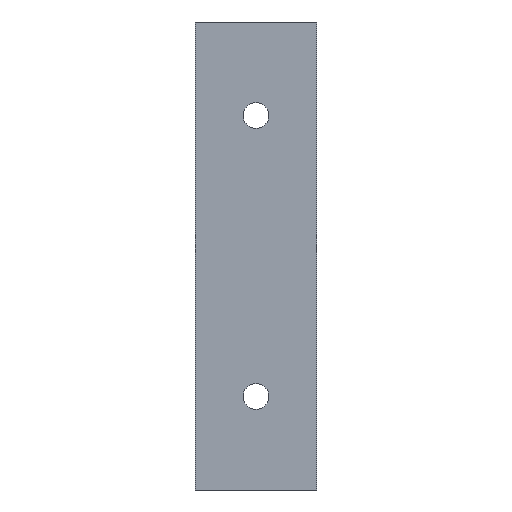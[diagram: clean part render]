
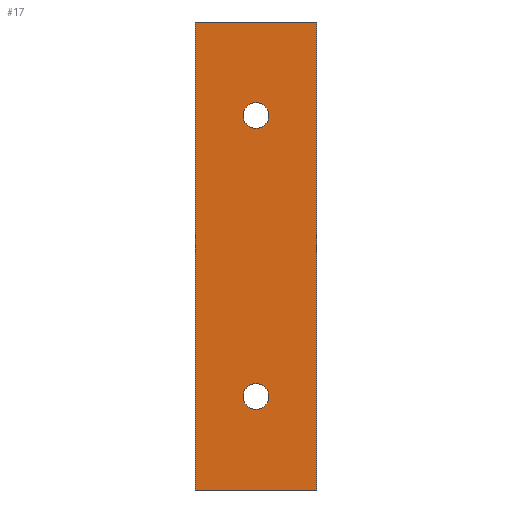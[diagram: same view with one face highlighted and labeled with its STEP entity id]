
A CAD part, left-side view. The second image highlights one B-rep face of the part: STEP entity #17.
In plain terms, the highlighted planar face has unit normal (-1, 0, 0).
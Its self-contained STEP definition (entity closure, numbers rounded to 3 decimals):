
#17 = ADVANCED_FACE('',(#18,#137,#172),#32,.F.);
#18 = FACE_BOUND('',#19,.F.);
#19 = EDGE_LOOP('',(#20,#55,#83,#111));
#20 = ORIENTED_EDGE('',*,*,#21,.F.);
#21 = EDGE_CURVE('',#22,#24,#26,.T.);
#22 = VERTEX_POINT('',#23);
#23 = CARTESIAN_POINT('',(-124.5,-4.,0.));
#24 = VERTEX_POINT('',#25);
#25 = CARTESIAN_POINT('',(-124.5,-4.,100.));
#26 = SURFACE_CURVE('',#27,(#31,#43),.PCURVE_S1.);
#27 = LINE('',#28,#29);
#28 = CARTESIAN_POINT('',(-124.5,-4.,0.));
#29 = VECTOR('',#30,1.);
#30 = DIRECTION('',(0.,0.,1.));
#31 = PCURVE('',#32,#37);
#32 = PLANE('',#33);
#33 = AXIS2_PLACEMENT_3D('',#34,#35,#36);
#34 = CARTESIAN_POINT('',(-124.5,-4.,0.));
#35 = DIRECTION('',(1.,0.,0.));
#36 = DIRECTION('',(0.,0.,1.));
#37 = DEFINITIONAL_REPRESENTATION('',(#38),#42);
#38 = LINE('',#39,#40);
#39 = CARTESIAN_POINT('',(0.,0.));
#40 = VECTOR('',#41,1.);
#41 = DIRECTION('',(1.,0.));
#42 = ( GEOMETRIC_REPRESENTATION_CONTEXT(2) 
PARAMETRIC_REPRESENTATION_CONTEXT() REPRESENTATION_CONTEXT('2D SPACE',''
  ) );
#43 = PCURVE('',#44,#49);
#44 = PLANE('',#45);
#45 = AXIS2_PLACEMENT_3D('',#46,#47,#48);
#46 = CARTESIAN_POINT('',(-124.5,-4.,0.));
#47 = DIRECTION('',(0.,1.,0.));
#48 = DIRECTION('',(0.,0.,1.));
#49 = DEFINITIONAL_REPRESENTATION('',(#50),#54);
#50 = LINE('',#51,#52);
#51 = CARTESIAN_POINT('',(0.,0.));
#52 = VECTOR('',#53,1.);
#53 = DIRECTION('',(1.,0.));
#54 = ( GEOMETRIC_REPRESENTATION_CONTEXT(2) 
PARAMETRIC_REPRESENTATION_CONTEXT() REPRESENTATION_CONTEXT('2D SPACE',''
  ) );
#55 = ORIENTED_EDGE('',*,*,#56,.T.);
#56 = EDGE_CURVE('',#22,#57,#59,.T.);
#57 = VERTEX_POINT('',#58);
#58 = CARTESIAN_POINT('',(-124.5,22.,0.));
#59 = SURFACE_CURVE('',#60,(#64,#71),.PCURVE_S1.);
#60 = LINE('',#61,#62);
#61 = CARTESIAN_POINT('',(-124.5,-4.,0.));
#62 = VECTOR('',#63,1.);
#63 = DIRECTION('',(0.,1.,0.));
#64 = PCURVE('',#32,#65);
#65 = DEFINITIONAL_REPRESENTATION('',(#66),#70);
#66 = LINE('',#67,#68);
#67 = CARTESIAN_POINT('',(0.,0.));
#68 = VECTOR('',#69,1.);
#69 = DIRECTION('',(0.,-1.));
#70 = ( GEOMETRIC_REPRESENTATION_CONTEXT(2) 
PARAMETRIC_REPRESENTATION_CONTEXT() REPRESENTATION_CONTEXT('2D SPACE',''
  ) );
#71 = PCURVE('',#72,#77);
#72 = PLANE('',#73);
#73 = AXIS2_PLACEMENT_3D('',#74,#75,#76);
#74 = CARTESIAN_POINT('',(-124.5,-4.,0.));
#75 = DIRECTION('',(0.,0.,1.));
#76 = DIRECTION('',(1.,0.,0.));
#77 = DEFINITIONAL_REPRESENTATION('',(#78),#82);
#78 = LINE('',#79,#80);
#79 = CARTESIAN_POINT('',(0.,0.));
#80 = VECTOR('',#81,1.);
#81 = DIRECTION('',(0.,1.));
#82 = ( GEOMETRIC_REPRESENTATION_CONTEXT(2) 
PARAMETRIC_REPRESENTATION_CONTEXT() REPRESENTATION_CONTEXT('2D SPACE',''
  ) );
#83 = ORIENTED_EDGE('',*,*,#84,.T.);
#84 = EDGE_CURVE('',#57,#85,#87,.T.);
#85 = VERTEX_POINT('',#86);
#86 = CARTESIAN_POINT('',(-124.5,22.,100.));
#87 = SURFACE_CURVE('',#88,(#92,#99),.PCURVE_S1.);
#88 = LINE('',#89,#90);
#89 = CARTESIAN_POINT('',(-124.5,22.,0.));
#90 = VECTOR('',#91,1.);
#91 = DIRECTION('',(0.,0.,1.));
#92 = PCURVE('',#32,#93);
#93 = DEFINITIONAL_REPRESENTATION('',(#94),#98);
#94 = LINE('',#95,#96);
#95 = CARTESIAN_POINT('',(0.,-26.));
#96 = VECTOR('',#97,1.);
#97 = DIRECTION('',(1.,0.));
#98 = ( GEOMETRIC_REPRESENTATION_CONTEXT(2) 
PARAMETRIC_REPRESENTATION_CONTEXT() REPRESENTATION_CONTEXT('2D SPACE',''
  ) );
#99 = PCURVE('',#100,#105);
#100 = PLANE('',#101);
#101 = AXIS2_PLACEMENT_3D('',#102,#103,#104);
#102 = CARTESIAN_POINT('',(-124.5,22.,0.));
#103 = DIRECTION('',(0.,1.,0.));
#104 = DIRECTION('',(0.,0.,1.));
#105 = DEFINITIONAL_REPRESENTATION('',(#106),#110);
#106 = LINE('',#107,#108);
#107 = CARTESIAN_POINT('',(0.,0.));
#108 = VECTOR('',#109,1.);
#109 = DIRECTION('',(1.,0.));
#110 = ( GEOMETRIC_REPRESENTATION_CONTEXT(2) 
PARAMETRIC_REPRESENTATION_CONTEXT() REPRESENTATION_CONTEXT('2D SPACE',''
  ) );
#111 = ORIENTED_EDGE('',*,*,#112,.F.);
#112 = EDGE_CURVE('',#24,#85,#113,.T.);
#113 = SURFACE_CURVE('',#114,(#118,#125),.PCURVE_S1.);
#114 = LINE('',#115,#116);
#115 = CARTESIAN_POINT('',(-124.5,-4.,100.));
#116 = VECTOR('',#117,1.);
#117 = DIRECTION('',(0.,1.,0.));
#118 = PCURVE('',#32,#119);
#119 = DEFINITIONAL_REPRESENTATION('',(#120),#124);
#120 = LINE('',#121,#122);
#121 = CARTESIAN_POINT('',(100.,0.));
#122 = VECTOR('',#123,1.);
#123 = DIRECTION('',(0.,-1.));
#124 = ( GEOMETRIC_REPRESENTATION_CONTEXT(2) 
PARAMETRIC_REPRESENTATION_CONTEXT() REPRESENTATION_CONTEXT('2D SPACE',''
  ) );
#125 = PCURVE('',#126,#131);
#126 = PLANE('',#127);
#127 = AXIS2_PLACEMENT_3D('',#128,#129,#130);
#128 = CARTESIAN_POINT('',(-124.5,-4.,100.));
#129 = DIRECTION('',(0.,0.,1.));
#130 = DIRECTION('',(1.,0.,0.));
#131 = DEFINITIONAL_REPRESENTATION('',(#132),#136);
#132 = LINE('',#133,#134);
#133 = CARTESIAN_POINT('',(0.,0.));
#134 = VECTOR('',#135,1.);
#135 = DIRECTION('',(0.,1.));
#136 = ( GEOMETRIC_REPRESENTATION_CONTEXT(2) 
PARAMETRIC_REPRESENTATION_CONTEXT() REPRESENTATION_CONTEXT('2D SPACE',''
  ) );
#137 = FACE_BOUND('',#138,.F.);
#138 = EDGE_LOOP('',(#139));
#139 = ORIENTED_EDGE('',*,*,#140,.T.);
#140 = EDGE_CURVE('',#141,#141,#143,.T.);
#141 = VERTEX_POINT('',#142);
#142 = CARTESIAN_POINT('',(-124.5,11.75,20.));
#143 = SURFACE_CURVE('',#144,(#149,#160),.PCURVE_S1.);
#144 = CIRCLE('',#145,2.75);
#145 = AXIS2_PLACEMENT_3D('',#146,#147,#148);
#146 = CARTESIAN_POINT('',(-124.5,9.,20.));
#147 = DIRECTION('',(-1.,0.,0.));
#148 = DIRECTION('',(0.,1.,0.));
#149 = PCURVE('',#32,#150);
#150 = DEFINITIONAL_REPRESENTATION('',(#151),#159);
#151 = ( BOUNDED_CURVE() B_SPLINE_CURVE(2,(#152,#153,#154,#155,#156,#157
,#158),.UNSPECIFIED.,.T.,.F.) B_SPLINE_CURVE_WITH_KNOTS((1,2,2,2,2,1),(
    -2.094,0.,2.094,4.189,6.283,
8.378),.UNSPECIFIED.) CURVE() GEOMETRIC_REPRESENTATION_ITEM() 
RATIONAL_B_SPLINE_CURVE((1.,0.5,1.,0.5,1.,0.5,1.)) REPRESENTATION_ITEM(
  '') );
#152 = CARTESIAN_POINT('',(20.,-15.75));
#153 = CARTESIAN_POINT('',(15.237,-15.75));
#154 = CARTESIAN_POINT('',(17.618,-11.625));
#155 = CARTESIAN_POINT('',(20.,-7.5));
#156 = CARTESIAN_POINT('',(22.382,-11.625));
#157 = CARTESIAN_POINT('',(24.763,-15.75));
#158 = CARTESIAN_POINT('',(20.,-15.75));
#159 = ( GEOMETRIC_REPRESENTATION_CONTEXT(2) 
PARAMETRIC_REPRESENTATION_CONTEXT() REPRESENTATION_CONTEXT('2D SPACE',''
  ) );
#160 = PCURVE('',#161,#166);
#161 = CYLINDRICAL_SURFACE('',#162,2.75);
#162 = AXIS2_PLACEMENT_3D('',#163,#164,#165);
#163 = CARTESIAN_POINT('',(-125.5,9.,20.));
#164 = DIRECTION('',(-1.,-0.,-0.));
#165 = DIRECTION('',(0.,1.,0.));
#166 = DEFINITIONAL_REPRESENTATION('',(#167),#171);
#167 = LINE('',#168,#169);
#168 = CARTESIAN_POINT('',(-6.283,-1.));
#169 = VECTOR('',#170,1.);
#170 = DIRECTION('',(1.,-0.));
#171 = ( GEOMETRIC_REPRESENTATION_CONTEXT(2) 
PARAMETRIC_REPRESENTATION_CONTEXT() REPRESENTATION_CONTEXT('2D SPACE',''
  ) );
#172 = FACE_BOUND('',#173,.F.);
#173 = EDGE_LOOP('',(#174));
#174 = ORIENTED_EDGE('',*,*,#175,.T.);
#175 = EDGE_CURVE('',#176,#176,#178,.T.);
#176 = VERTEX_POINT('',#177);
#177 = CARTESIAN_POINT('',(-124.5,11.75,80.));
#178 = SURFACE_CURVE('',#179,(#184,#195),.PCURVE_S1.);
#179 = CIRCLE('',#180,2.75);
#180 = AXIS2_PLACEMENT_3D('',#181,#182,#183);
#181 = CARTESIAN_POINT('',(-124.5,9.,80.));
#182 = DIRECTION('',(-1.,0.,0.));
#183 = DIRECTION('',(0.,1.,0.));
#184 = PCURVE('',#32,#185);
#185 = DEFINITIONAL_REPRESENTATION('',(#186),#194);
#186 = ( BOUNDED_CURVE() B_SPLINE_CURVE(2,(#187,#188,#189,#190,#191,#192
,#193),.UNSPECIFIED.,.T.,.F.) B_SPLINE_CURVE_WITH_KNOTS((1,2,2,2,2,1),(
    -2.094,0.,2.094,4.189,6.283,
8.378),.UNSPECIFIED.) CURVE() GEOMETRIC_REPRESENTATION_ITEM() 
RATIONAL_B_SPLINE_CURVE((1.,0.5,1.,0.5,1.,0.5,1.)) REPRESENTATION_ITEM(
  '') );
#187 = CARTESIAN_POINT('',(80.,-15.75));
#188 = CARTESIAN_POINT('',(75.237,-15.75));
#189 = CARTESIAN_POINT('',(77.618,-11.625));
#190 = CARTESIAN_POINT('',(80.,-7.5));
#191 = CARTESIAN_POINT('',(82.382,-11.625));
#192 = CARTESIAN_POINT('',(84.763,-15.75));
#193 = CARTESIAN_POINT('',(80.,-15.75));
#194 = ( GEOMETRIC_REPRESENTATION_CONTEXT(2) 
PARAMETRIC_REPRESENTATION_CONTEXT() REPRESENTATION_CONTEXT('2D SPACE',''
  ) );
#195 = PCURVE('',#196,#201);
#196 = CYLINDRICAL_SURFACE('',#197,2.75);
#197 = AXIS2_PLACEMENT_3D('',#198,#199,#200);
#198 = CARTESIAN_POINT('',(-125.5,9.,80.));
#199 = DIRECTION('',(-1.,-0.,-0.));
#200 = DIRECTION('',(0.,1.,0.));
#201 = DEFINITIONAL_REPRESENTATION('',(#202),#206);
#202 = LINE('',#203,#204);
#203 = CARTESIAN_POINT('',(-6.283,-1.));
#204 = VECTOR('',#205,1.);
#205 = DIRECTION('',(1.,-0.));
#206 = ( GEOMETRIC_REPRESENTATION_CONTEXT(2) 
PARAMETRIC_REPRESENTATION_CONTEXT() REPRESENTATION_CONTEXT('2D SPACE',''
  ) );
